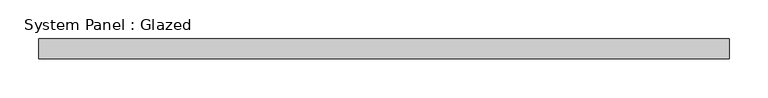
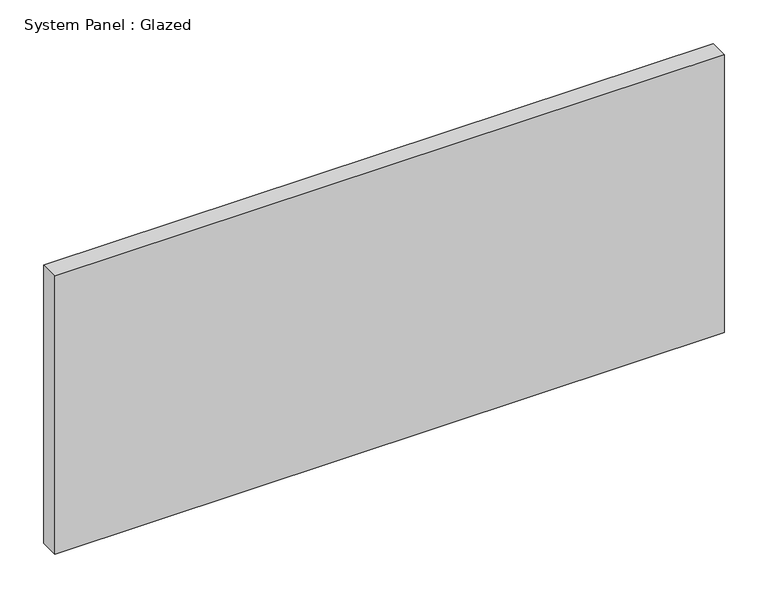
"""IFC4 building model written with IfcOpenShell, lengths in millimetres: plate geometry, System Panel : Glazed."""

import ifcopenshell
import ifcopenshell.guid

model = None  # the IFC model being written
_history = None  # IfcOwnerHistory: only IFC2X3 demands one
_inside = {}  # id of a spatial element -> (the spatial element, [elements in it])
_under = {}  # id of a project, library or spatial element -> (it, [spatial elements below it])
_declared = {}  # id of a project -> (the project, [libraries it declares])
_typed = {}  # id of a type object -> (the type object, [elements of that type])
_made_of = {}  # id of a material, layer set ... -> (it, [elements and type objects made of it])


def new_model(schema):
    """Start an empty IFC model of exactly this schema.

    Asked for "IFC4X3", IfcOpenShell would pick the latest addendum, in which some entities
    have other attributes; the version numbers below select the first issue.
    IFC2X3 requires an IfcOwnerHistory on every rooted entity: one is made here for all.
    """
    global model, _history
    if schema == "IFC4X3":
        model = ifcopenshell.file(schema_version=(4, 3, 0, 0))
    else:
        model = ifcopenshell.file(schema=schema)
    _inside.clear()
    _under.clear()
    _declared.clear()
    _typed.clear()
    _made_of.clear()
    _history = None
    if model.schema == "IFC2X3":
        org = make("IfcOrganization", Name="unknown")
        user = make(
            "IfcPersonAndOrganization",
            ThePerson=make("IfcPerson", FamilyName="unknown"),
            TheOrganization=org,
        )
        app = make(
            "IfcApplication",
            ApplicationDeveloper=org,
            Version="unknown",
            ApplicationFullName="unknown",
            ApplicationIdentifier="unknown",
        )
        _history = make(
            "IfcOwnerHistory",
            OwningUser=user,
            OwningApplication=app,
            ChangeAction="ADDED",
            CreationDate=0,
        )
    return model


def make(cls, **values):
    """One entity of the class cls with the attributes given. An attribute that is None is left unset."""
    return model.create_entity(
        cls, **{name: value for name, value in values.items() if value is not None}
    )


def rooted(cls, **values):
    """An entity with a GlobalId (a new one), such as an element, a storey or a relation."""
    return make(cls, GlobalId=ifcopenshell.guid.new(), OwnerHistory=_history, **values)


def si_unit(unit_type, name, prefix=None):
    """IfcSIUnit, for example si_unit("LENGTHUNIT", "METRE", prefix="MILLI")."""
    return make("IfcSIUnit", UnitType=unit_type, Prefix=prefix, Name=name)


def assignment(units):
    """IfcUnitAssignment: the units of a project."""
    return None if units is None else make("IfcUnitAssignment", Units=units)


def point(xyz):
    """IfcCartesianPoint."""
    return None if xyz is None else make("IfcCartesianPoint", Coordinates=xyz)


def direction(xyz):
    """IfcDirection."""
    return None if xyz is None else make("IfcDirection", DirectionRatios=xyz)


def frame(location, z_axis=None, x_axis=None):
    """IfcAxis2Placement3D, a coordinate frame: its origin and axes. An axis left out is left unset."""
    return make(
        "IfcAxis2Placement3D",
        Location=point(location),
        Axis=direction(z_axis),
        RefDirection=direction(x_axis),
    )


def origin():
    """The frame at (0, 0, 0) with its axes left unset."""
    return frame((0.0, 0.0, 0.0))


def origin_with_axes():
    """The frame at (0, 0, 0) with the z axis (0, 0, 1) and the x axis (1, 0, 0) written out."""
    return frame((0.0, 0.0, 0.0), z_axis=(0.0, 0.0, 1.0), x_axis=(1.0, 0.0, 0.0))


def place(relative_to, where):
    """IfcLocalPlacement: puts the frame where relative to a parent placement (None: the world)."""
    return make(
        "IfcLocalPlacement", PlacementRelTo=relative_to, RelativePlacement=where
    )


def context(
    kind, dimensions, precision=None, world=None, true_north=None, identifier=None
):
    """IfcGeometricRepresentationContext, for example the 3D "Model" context."""
    return make(
        "IfcGeometricRepresentationContext",
        ContextIdentifier=identifier,
        ContextType=kind,
        CoordinateSpaceDimension=dimensions,
        Precision=precision,
        WorldCoordinateSystem=world,
        TrueNorth=true_north,
    )


def project(units=None, contexts=None):
    """IfcProject with its units and contexts."""
    return rooted(
        "IfcProject",
        Name="project",
        RepresentationContexts=contexts,
        UnitsInContext=assignment(units),
    )


def spatial(cls, under=None, at=None, **own):
    """A site, building, storey or space (cls), placed at a placement, below another one or the project."""
    s = rooted(cls, ObjectPlacement=at, **own)
    if under is not None:
        _under.setdefault(under.id(), (under, []))[1].append(s)
    return s


def polyline(points):
    """IfcPolyline through the points."""
    return make("IfcPolyline", Points=[point(p) for p in points])


def outline(outer, holes=None, kind="AREA"):
    """IfcArbitraryClosedProfileDef: a profile drawn as a closed curve; with holes, ...WithVoids."""
    if holes is None:
        return make("IfcArbitraryClosedProfileDef", ProfileType=kind, OuterCurve=outer)
    return make(
        "IfcArbitraryProfileDefWithVoids",
        ProfileType=kind,
        OuterCurve=outer,
        InnerCurves=holes,
    )


def extrude(swept, where, along, depth):
    """IfcExtrudedAreaSolid: the profile swept, set in the frame where, extruded along a direction by depth."""
    return make(
        "IfcExtrudedAreaSolid",
        SweptArea=swept,
        Position=where,
        ExtrudedDirection=direction(along),
        Depth=depth,
    )


def shape(context_of_items, identifier, shape_type, items):
    """IfcShapeRepresentation: the items that make up one representation, for example the "Body"."""
    return make(
        "IfcShapeRepresentation",
        ContextOfItems=context_of_items,
        RepresentationIdentifier=identifier,
        RepresentationType=shape_type,
        Items=items,
    )


def source(mapping_origin, context_of_items, identifier, shape_type, items):
    """IfcRepresentationMap: a shape defined once, which mapped items show again and again."""
    return make(
        "IfcRepresentationMap",
        MappingOrigin=mapping_origin,
        MappedRepresentation=shape(context_of_items, identifier, shape_type, items),
    )


def transform(
    local_origin,
    x_axis=None,
    y_axis=None,
    z_axis=None,
    scale=None,
    scale2=None,
    scale3=None,
    uniform=True,
):
    """IfcCartesianTransformationOperator3D, or its non-uniform kind. x_axis, y_axis, z_axis: its Axis1, 2, 3."""
    if uniform:
        return make(
            "IfcCartesianTransformationOperator3D",
            Axis1=direction(x_axis),
            Axis2=direction(y_axis),
            LocalOrigin=point(local_origin),
            Scale=scale,
            Axis3=direction(z_axis),
        )
    return make(
        "IfcCartesianTransformationOperator3DnonUniform",
        Axis1=direction(x_axis),
        Axis2=direction(y_axis),
        LocalOrigin=point(local_origin),
        Scale=scale,
        Axis3=direction(z_axis),
        Scale2=scale2,
        Scale3=scale3,
    )


def mapped(mapping_source, mapping_target):
    """IfcMappedItem: shows the shape of a source again, moved by a transform."""
    return make(
        "IfcMappedItem", MappingSource=mapping_source, MappingTarget=mapping_target
    )


def made_of(thing, what):
    """Note that an element or type object is made of a material, layer set ...; save() writes the relation."""
    if what is not None:
        _made_of.setdefault(what.id(), (what, []))[1].append(thing)
    return thing


def element(
    cls,
    number,
    at=None,
    inside=None,
    cuts=None,
    type_object=None,
    material=None,
    context=None,
    identifier="Body",
    shape_type=None,
    held_by="IfcProductDefinitionShape",
    body=None,
    shapes=None,
    **own,
):
    """One element of the class cls, such as IfcWall. Its Tag is "e" and its number.

    at: its placement. inside: the storey or other place that contains it. cuts: it is an
    opening in that element (IfcRelVoidsElement). A single representation is given by context,
    identifier, shape_type and body (its items); several are given by shapes. held_by: the class
    of the entity that holds the representations. save() writes the other relations.
    """
    e = rooted(cls, Tag="e%d" % number, ObjectPlacement=at, **own)
    if body is not None:
        shapes = [shape(context, identifier, shape_type, body)]
    if shapes is not None:
        e.Representation = make(held_by, Representations=shapes)
    if inside is not None:
        _inside.setdefault(inside.id(), (inside, []))[1].append(e)
    if cuts is not None:
        rooted(
            "IfcRelVoidsElement", RelatingBuildingElement=cuts, RelatedOpeningElement=e
        )
    if type_object is not None:
        _typed.setdefault(type_object.id(), (type_object, []))[1].append(e)
    return made_of(e, material)


def aggregate(whole, parts):
    """IfcRelAggregates: a whole, such as a stair, and the parts it consists of."""
    return rooted("IfcRelAggregates", RelatingObject=whole, RelatedObjects=parts)


def save(model, path):
    """Write the relations noted so far, then the file.

    IfcRelAggregates (storeys below a building ...), IfcRelContainedInSpatialStructure (elements
    in a storey), IfcRelDefinesByType, IfcRelAssociatesMaterial and IfcRelDeclares: one each for
    every whole, place, type object, material and project.
    """
    for whole, parts in _under.values():
        aggregate(whole, parts)
    for where, things in _inside.values():
        rooted(
            "IfcRelContainedInSpatialStructure",
            RelatedElements=things,
            RelatingStructure=where,
        )
    for kind, things in _typed.values():
        rooted("IfcRelDefinesByType", RelatedObjects=things, RelatingType=kind)
    for what, things in _made_of.values():
        rooted("IfcRelAssociatesMaterial", RelatedObjects=things, RelatingMaterial=what)
    for by, libraries in _declared.values():
        rooted("IfcRelDeclares", RelatingContext=by, RelatedDefinitions=libraries)
    model.write(path)


def system_panel_glazed_2f6243bf(model_context):
    return source(origin(), model_context, "Body", "SweptSolid", [
        extrude(outline(polyline([(443.9708333, 19.05), (-443.9708333, 19.05), (-443.9708333, 44.45), (443.9708333, 44.45), (443.9708333, 19.05)])), origin_with_axes(), (0.0, 0.0, 1.0), 389.9973635),
    ])


if __name__ == "__main__":
    model = new_model("IFC4")
    model_context = context("Model", 3, world=origin())
    ifc_project = project(units=[si_unit("LENGTHUNIT", "METRE", prefix="MILLI")], contexts=[model_context])
    site = spatial("IfcSite", under=ifc_project)
    building = spatial("IfcBuilding", under=site)
    placement = place(None, origin())
    system_panel_glazed_shape = system_panel_glazed_2f6243bf(model_context)
    element("IfcPlate", 1, ObjectType="System Panel : Glazed", at=placement, inside=building, context=model_context, shape_type="MappedRepresentation", body=[
        mapped(system_panel_glazed_shape, transform((0.0, 0.0, 0.0), x_axis=(1.0, 0.0, 0.0), y_axis=(0.0, 1.0, 0.0), z_axis=(0.0, 0.0, 1.0))),
    ])
    save(model, "model.ifc")
